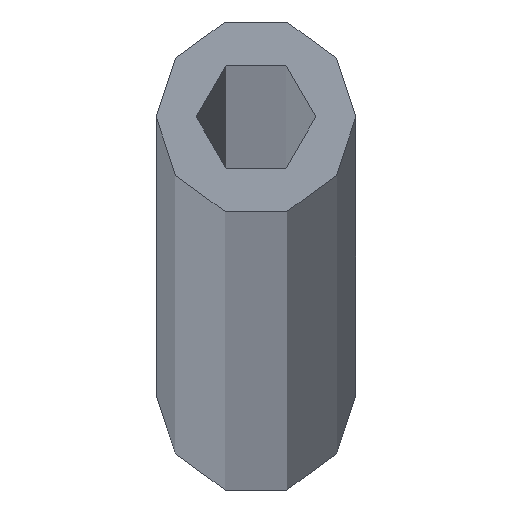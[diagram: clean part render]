
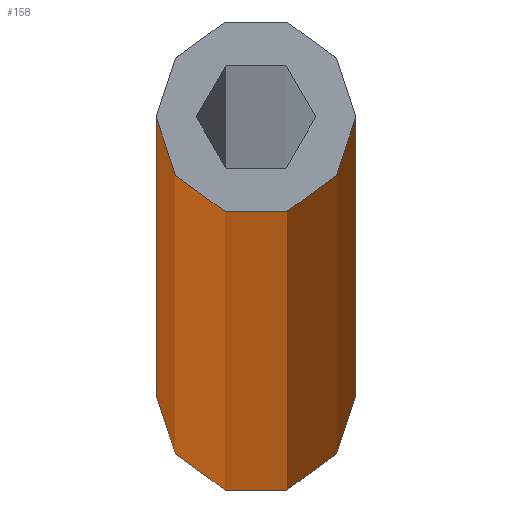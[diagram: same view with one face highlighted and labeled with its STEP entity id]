
A CAD part, top view. The second image highlights one B-rep face of the part: STEP entity #158.
In plain terms, the highlighted cylindrical face has radius 1.25 mm (diameter 2.5 mm), a partial arc.
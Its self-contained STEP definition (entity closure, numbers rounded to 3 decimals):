
#4 = VERTEX_POINT ( 'NONE', #131 ) ;
#7 = EDGE_CURVE ( 'NONE', #43, #97, #117, .T. ) ;
#8 = VECTOR ( 'NONE', #145, 1000. ) ;
#10 = FACE_OUTER_BOUND ( 'NONE', #227, .T. ) ;
#20 = ORIENTED_EDGE ( 'NONE', *, *, #219, .T. ) ;
#22 = ORIENTED_EDGE ( 'NONE', *, *, #128, .T. ) ;
#42 = CARTESIAN_POINT ( 'NONE',  ( 1.25, 0., 2000. ) ) ;
#43 = VERTEX_POINT ( 'NONE', #42 ) ;
#52 = CIRCLE ( 'NONE', #224, 1.25 ) ;
#57 = EDGE_CURVE ( 'NONE', #4, #43, #52, .T. ) ;
#65 = CARTESIAN_POINT ( 'NONE',  ( -1.25, 0., 2000. ) ) ;
#68 = LINE ( 'NONE', #65, #8 ) ;
#73 = VERTEX_POINT ( 'NONE', #134 ) ;
#90 = DIRECTION ( 'NONE',  ( -1., 0., 0. ) ) ;
#97 = VERTEX_POINT ( 'NONE', #98 ) ;
#98 = CARTESIAN_POINT ( 'NONE',  ( 1.25, 0., 0. ) ) ;
#100 = CYLINDRICAL_SURFACE ( 'NONE', #208, 1.25 ) ;
#116 = ORIENTED_EDGE ( 'NONE', *, *, #57, .F. ) ;
#117 = LINE ( 'NONE', #173, #183 ) ;
#128 = EDGE_CURVE ( 'NONE', #73, #97, #203, .T. ) ;
#131 = CARTESIAN_POINT ( 'NONE',  ( -1.25, 0., 2000. ) ) ;
#134 = CARTESIAN_POINT ( 'NONE',  ( -1.25, 0., 0. ) ) ;
#137 = CARTESIAN_POINT ( 'NONE',  ( 0., 0., 2000. ) ) ;
#144 = DIRECTION ( 'NONE',  ( 1., 0., 0. ) ) ;
#145 = DIRECTION ( 'NONE',  ( 0., 0., -1. ) ) ;
#155 = ORIENTED_EDGE ( 'NONE', *, *, #7, .F. ) ;
#158 = ADVANCED_FACE ( 'NONE', ( #10 ), #100, .T. ) ;
#160 = AXIS2_PLACEMENT_3D ( 'NONE', #222, #240, #144 ) ;
#173 = CARTESIAN_POINT ( 'NONE',  ( 1.25, 0., 2000. ) ) ;
#183 = VECTOR ( 'NONE', #248, 1000. ) ;
#199 = DIRECTION ( 'NONE',  ( 0., 0., 1. ) ) ;
#203 = CIRCLE ( 'NONE', #160, 1.25 ) ;
#208 = AXIS2_PLACEMENT_3D ( 'NONE', #137, #223, #90 ) ;
#211 = DIRECTION ( 'NONE',  ( 1., 0., 0. ) ) ;
#216 = CARTESIAN_POINT ( 'NONE',  ( 0., 0., 2000. ) ) ;
#219 = EDGE_CURVE ( 'NONE', #4, #73, #68, .T. ) ;
#222 = CARTESIAN_POINT ( 'NONE',  ( 0., 0., 0. ) ) ;
#223 = DIRECTION ( 'NONE',  ( 0., 0., -1. ) ) ;
#224 = AXIS2_PLACEMENT_3D ( 'NONE', #216, #199, #211 ) ;
#227 = EDGE_LOOP ( 'NONE', ( #155, #116, #20, #22 ) ) ;
#240 = DIRECTION ( 'NONE',  ( 0., 0., 1. ) ) ;
#248 = DIRECTION ( 'NONE',  ( 0., 0., -1. ) ) ;
